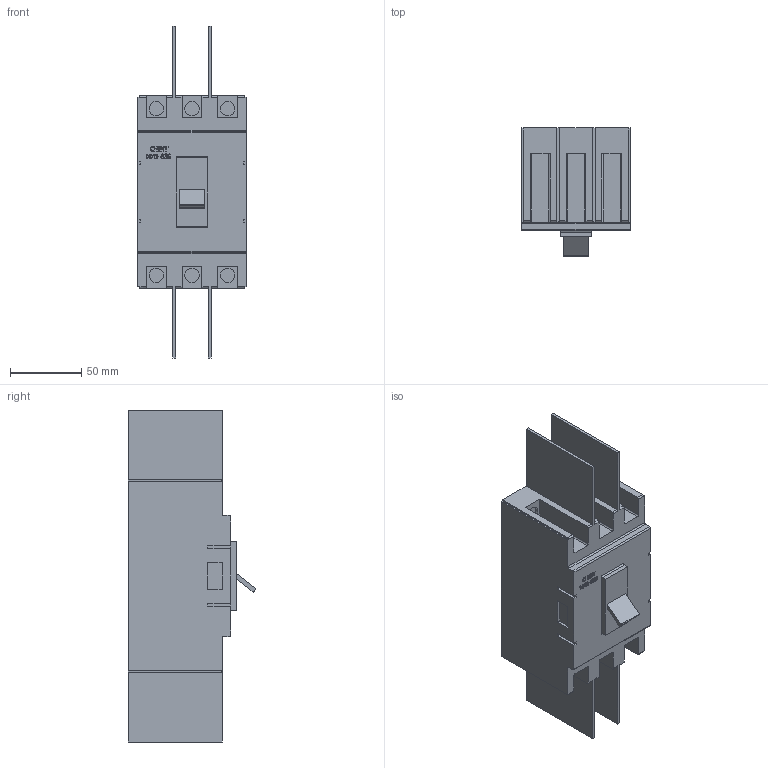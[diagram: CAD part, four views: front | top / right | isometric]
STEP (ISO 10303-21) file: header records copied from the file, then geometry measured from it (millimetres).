
FILE_DESCRIPTION(/* description */ ('','CAx-IF Rec.Pracs.---Representation and Presentation of Product Manufacturing Information (PMI)---3.8---2014-02-18'),/* implementation_level */ '2;1');
FILE_NAME(/* name */ 'C:\Users\ILYA\Desktop\NM1\Авт. выкл. NM1-63S3Р 63A 15кА (CHINT)\Авт. выкл. NM1-63S3Р 63A 15кА (CHINT).stp',/* time_stamp */ '2017-08-19T07:35:08+03:00',/* author */ ('ILYA'),/* organization */ (''),/* preprocessor_version */ 'ST-DEVELOPER v16.1',/* originating_system */ 'Autodesk Inventor 2016',/* authorisation */ '');
FILE_SCHEMA (('AP242_MANAGED_MODEL_BASED_3D_ENGINEERING_MIM_LF { 1 0 10303 442 1 1 4 }'));
Length unit declared in the file: millimetre
Products named in the file (1): Авт. выкл. NM1-63
S3Р 63A 15кА (CHINT)
Bounding box: 76 x 89.8 x 233 mm (x, y, z)
Volume: 682334.7 mm3; surface area: 87606.6 mm2
Topology: 1 solids, 1 shells, 319 faces, 879 edges, 585 vertices
Faces by surface type: plane 210, bspline 71, cylinder 38
Full cylindrical faces by diameter (mm): 10 x6
Entity records: 10712 total; most frequent: CARTESIAN_POINT 2914, ORIENTED_EDGE 1746, DIRECTION 1306, EDGE_CURVE 873, LINE 654, VECTOR 654, VERTEX_POINT 585, EDGE_LOOP 348
